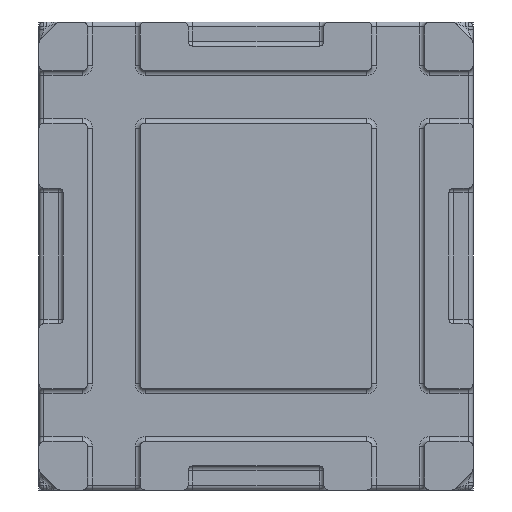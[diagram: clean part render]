
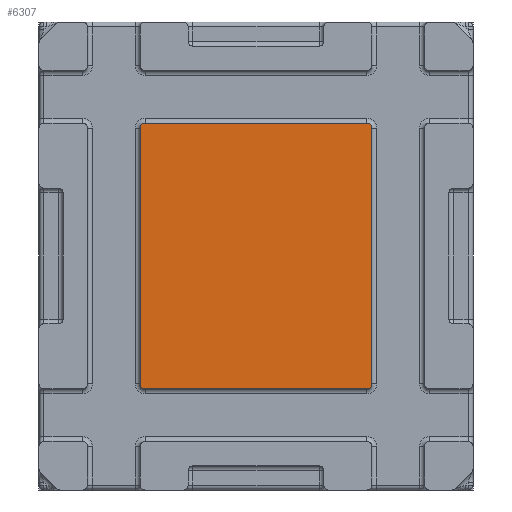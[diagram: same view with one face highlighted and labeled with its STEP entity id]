
A CAD part, front view. The second image highlights one B-rep face of the part: STEP entity #6307.
In plain terms, the highlighted planar face has unit normal (0, -1, 0).
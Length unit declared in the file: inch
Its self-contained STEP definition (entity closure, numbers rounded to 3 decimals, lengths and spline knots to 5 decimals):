
#67 = VERTEX_POINT ( 'NONE', #13943 ) ;
#240 = DIRECTION ( 'NONE',  ( 0., -1., 0. ) ) ;
#600 = FACE_OUTER_BOUND ( 'NONE', #10942, .T. ) ;
#790 = CARTESIAN_POINT ( 'NONE',  ( 10.9375, 0., -13.1875 ) ) ;
#897 = VECTOR ( 'NONE', #4606, 39.37008 ) ;
#1391 = ORIENTED_EDGE ( 'NONE', *, *, #8578, .F. ) ;
#1661 = CARTESIAN_POINT ( 'NONE',  ( 10.9375, 0., 13.6875 ) ) ;
#1798 = CARTESIAN_POINT ( 'NONE',  ( 33.8125, 0., -13.1875 ) ) ;
#1935 = DIRECTION ( 'NONE',  ( 0., 0., -1. ) ) ;
#2088 = DIRECTION ( 'NONE',  ( 0., 1., 0. ) ) ;
#2384 = CARTESIAN_POINT ( 'NONE',  ( 33.8125, 0., 13.6875 ) ) ;
#2424 = LINE ( 'NONE', #5573, #8242 ) ;
#2838 = DIRECTION ( 'NONE',  ( 0., -1., 0. ) ) ;
#2893 = DIRECTION ( 'NONE',  ( -1., 0., 0. ) ) ;
#2961 = DIRECTION ( 'NONE',  ( 0., 0., -1. ) ) ;
#3471 = AXIS2_PLACEMENT_3D ( 'NONE', #790, #8890, #1935 ) ;
#3606 = EDGE_CURVE ( 'NONE', #11398, #6123, #10935, .T. ) ;
#3884 = EDGE_CURVE ( 'NONE', #12385, #6123, #10019, .T. ) ;
#4235 = AXIS2_PLACEMENT_3D ( 'NONE', #10867, #2838, #10918 ) ;
#4435 = DIRECTION ( 'NONE',  ( 0., 0., -1. ) ) ;
#4461 = AXIS2_PLACEMENT_3D ( 'NONE', #1798, #9883, #2961 ) ;
#4601 = CIRCLE ( 'NONE', #4461, 0.5 ) ;
#4606 = DIRECTION ( 'NONE',  ( 0., 0., -1. ) ) ;
#4692 = EDGE_CURVE ( 'NONE', #6109, #67, #2424, .T. ) ;
#5121 = ORIENTED_EDGE ( 'NONE', *, *, #3884, .F. ) ;
#5265 = ORIENTED_EDGE ( 'NONE', *, *, #4692, .F. ) ;
#5573 = CARTESIAN_POINT ( 'NONE',  ( 34.3125, 0., 0. ) ) ;
#5579 = VECTOR ( 'NONE', #2893, 39.37008 ) ;
#5987 = CARTESIAN_POINT ( 'NONE',  ( 0., 0., 13.6875 ) ) ;
#6109 = VERTEX_POINT ( 'NONE', #6222 ) ;
#6123 = VERTEX_POINT ( 'NONE', #1661 ) ;
#6222 = CARTESIAN_POINT ( 'NONE',  ( 34.3125, 0., 13.1875 ) ) ;
#6307 = ADVANCED_FACE ( 'NONE', ( #600 ), #7468, .T. ) ;
#6545 = CIRCLE ( 'NONE', #3471, 0.5 ) ;
#6942 = VERTEX_POINT ( 'NONE', #10645 ) ;
#7162 = CARTESIAN_POINT ( 'NONE',  ( 33.8125, 0., 13.1875 ) ) ;
#7250 = ORIENTED_EDGE ( 'NONE', *, *, #3606, .T. ) ;
#7468 = PLANE ( 'NONE',  #4235 ) ;
#7536 = AXIS2_PLACEMENT_3D ( 'NONE', #9032, #2088, #10168 ) ;
#7996 = VERTEX_POINT ( 'NONE', #14409 ) ;
#8052 = CARTESIAN_POINT ( 'NONE',  ( 10.4375, 0., 0. ) ) ;
#8242 = VECTOR ( 'NONE', #4435, 39.37008 ) ;
#8329 = DIRECTION ( 'NONE',  ( 0., 0., 1. ) ) ;
#8578 = EDGE_CURVE ( 'NONE', #67, #7996, #4601, .T. ) ;
#8890 = DIRECTION ( 'NONE',  ( 0., -1., 0. ) ) ;
#9032 = CARTESIAN_POINT ( 'NONE',  ( 10.9375, 0., 13.1875 ) ) ;
#9814 = CARTESIAN_POINT ( 'NONE',  ( 0., 0., -13.6875 ) ) ;
#9868 = ORIENTED_EDGE ( 'NONE', *, *, #13220, .T. ) ;
#9883 = DIRECTION ( 'NONE',  ( 0., 1., 0. ) ) ;
#10019 = CIRCLE ( 'NONE', #7536, 0.5 ) ;
#10168 = DIRECTION ( 'NONE',  ( 0., 0., 1. ) ) ;
#10208 = VECTOR ( 'NONE', #12925, 39.37008 ) ;
#10645 = CARTESIAN_POINT ( 'NONE',  ( 10.9375, 0., -13.6875 ) ) ;
#10867 = CARTESIAN_POINT ( 'NONE',  ( 0., 0., 0. ) ) ;
#10918 = DIRECTION ( 'NONE',  ( 0., 0., -1. ) ) ;
#10935 = LINE ( 'NONE', #5987, #10208 ) ;
#10942 = EDGE_LOOP ( 'NONE', ( #9868, #13404, #11498, #1391, #5265, #11538, #7250, #5121 ) ) ;
#11398 = VERTEX_POINT ( 'NONE', #2384 ) ;
#11498 = ORIENTED_EDGE ( 'NONE', *, *, #11632, .F. ) ;
#11538 = ORIENTED_EDGE ( 'NONE', *, *, #12131, .T. ) ;
#11632 = EDGE_CURVE ( 'NONE', #7996, #6942, #11715, .T. ) ;
#11715 = LINE ( 'NONE', #9814, #5579 ) ;
#12131 = EDGE_CURVE ( 'NONE', #6109, #11398, #13238, .T. ) ;
#12385 = VERTEX_POINT ( 'NONE', #14554 ) ;
#12435 = EDGE_CURVE ( 'NONE', #13200, #6942, #6545, .T. ) ;
#12646 = CARTESIAN_POINT ( 'NONE',  ( 10.4375, 0., -13.1875 ) ) ;
#12925 = DIRECTION ( 'NONE',  ( -1., 0., 0. ) ) ;
#13200 = VERTEX_POINT ( 'NONE', #12646 ) ;
#13220 = EDGE_CURVE ( 'NONE', #12385, #13200, #13574, .T. ) ;
#13238 = CIRCLE ( 'NONE', #14925, 0.5 ) ;
#13404 = ORIENTED_EDGE ( 'NONE', *, *, #12435, .T. ) ;
#13574 = LINE ( 'NONE', #8052, #897 ) ;
#13943 = CARTESIAN_POINT ( 'NONE',  ( 34.3125, 0., -13.1875 ) ) ;
#14409 = CARTESIAN_POINT ( 'NONE',  ( 33.8125, 0., -13.6875 ) ) ;
#14554 = CARTESIAN_POINT ( 'NONE',  ( 10.4375, 0., 13.1875 ) ) ;
#14925 = AXIS2_PLACEMENT_3D ( 'NONE', #7162, #240, #8329 ) ;
